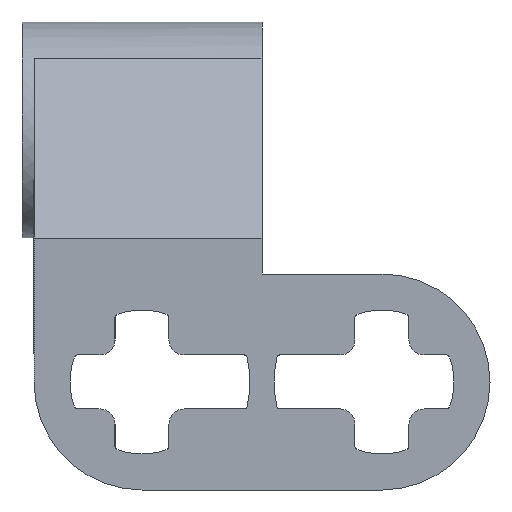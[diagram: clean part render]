
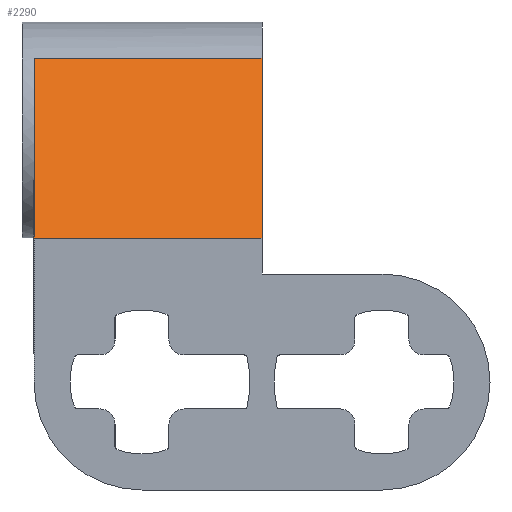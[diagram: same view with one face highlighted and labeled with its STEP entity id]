
A CAD part, left-side view. The second image highlights one B-rep face of the part: STEP entity #2290.
In plain terms, the highlighted planar face has unit normal (-0.748, 0, 0.663).
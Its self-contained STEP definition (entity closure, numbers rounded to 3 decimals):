
#247=ORIENTED_EDGE('',*,*,#957,.F.);
#248=ORIENTED_EDGE('',*,*,#958,.F.);
#249=ORIENTED_EDGE('',*,*,#959,.F.);
#250=ORIENTED_EDGE('',*,*,#960,.T.);
#957=EDGE_CURVE('',#1312,#1313,#1551,.T.);
#958=EDGE_CURVE('',#1314,#1312,#1552,.T.);
#959=EDGE_CURVE('',#1315,#1314,#1553,.T.);
#960=EDGE_CURVE('',#1315,#1313,#1554,.T.);
#1312=VERTEX_POINT('',#3465);
#1313=VERTEX_POINT('',#3466);
#1314=VERTEX_POINT('',#3468);
#1315=VERTEX_POINT('',#3470);
#1551=LINE('',#3464,#1757);
#1552=LINE('',#3467,#1758);
#1553=LINE('',#3469,#1759);
#1554=LINE('',#3471,#1760);
#1757=VECTOR('',#2709,1000.);
#1758=VECTOR('',#2710,1000.);
#1759=VECTOR('',#2711,1000.);
#1760=VECTOR('',#2712,1000.);
#1960=EDGE_LOOP('',(#247,#248,#249,#250));
#2100=FACE_BOUND('',#1960,.T.);
#2240=PLANE('',#2427);
#2290=ADVANCED_FACE('',(#2100),#2240,.F.);
#2427=AXIS2_PLACEMENT_3D('',#3463,#2707,#2708);
#2707=DIRECTION('',(0.748,0.,-0.663));
#2708=DIRECTION('',(-0.663,0.,-0.748));
#2709=DIRECTION('',(0.663,0.,0.748));
#2710=DIRECTION('',(0.,1.,0.));
#2711=DIRECTION('',(-0.663,0.,-0.748));
#2712=DIRECTION('',(0.,1.,0.));
#3463=CARTESIAN_POINT('',(-2.694,-16.,2.388));
#3464=CARTESIAN_POINT('',(-8.,-0.4,-3.6));
#3465=CARTESIAN_POINT('',(-8.,-0.4,-3.6));
#3466=CARTESIAN_POINT('',(-2.694,-0.4,2.388));
#3467=CARTESIAN_POINT('',(-8.,-16.,-3.6));
#3468=CARTESIAN_POINT('',(-8.,-8.,-3.6));
#3469=CARTESIAN_POINT('',(-2.694,-8.,2.388));
#3470=CARTESIAN_POINT('',(-2.694,-8.,2.388));
#3471=CARTESIAN_POINT('',(-2.694,-16.,2.388));
